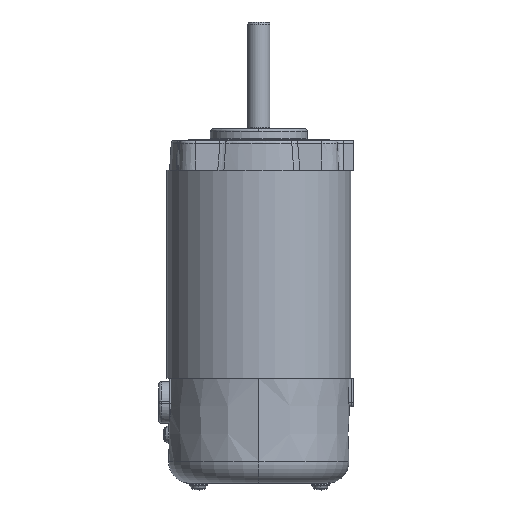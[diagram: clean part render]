
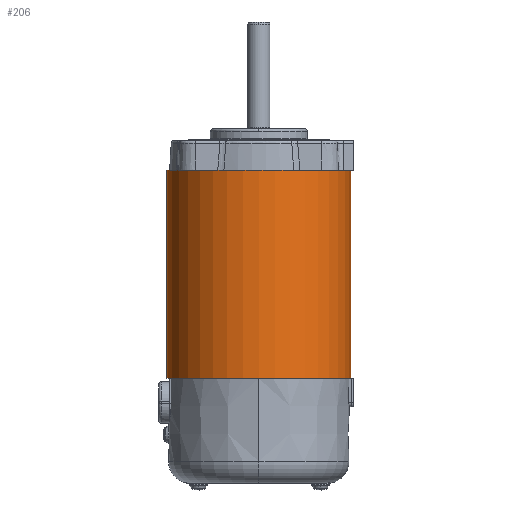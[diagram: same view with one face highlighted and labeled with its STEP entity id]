
A CAD part, left-side view. The second image highlights one B-rep face of the part: STEP entity #206.
In plain terms, the highlighted cylindrical face has radius 33.096 mm (diameter 66.192 mm), a partial arc.
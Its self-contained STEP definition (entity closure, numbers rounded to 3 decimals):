
#127 = AXIS2_PLACEMENT_3D ( 'NONE', #21006, #17052, #20660 ) ;
#206 = ADVANCED_FACE ( 'NONE', ( #695 ), #13304, .T. ) ;
#695 = FACE_OUTER_BOUND ( 'NONE', #23445, .T. ) ;
#710 = AXIS2_PLACEMENT_3D ( 'NONE', #5829, #5499, #11166 ) ;
#1899 = LINE ( 'NONE', #11350, #20952 ) ;
#3849 = CARTESIAN_POINT ( 'NONE',  ( 0., 33.985, 78.445 ) ) ;
#4303 = CARTESIAN_POINT ( 'NONE',  ( 0., 0.889, 3.515 ) ) ;
#5468 = DIRECTION ( 'NONE',  ( 0., 0., -1. ) ) ;
#5499 = DIRECTION ( 'NONE',  ( 0., 0., 1. ) ) ;
#5670 = CARTESIAN_POINT ( 'NONE',  ( 0., 67.081, 78.445 ) ) ;
#5730 = DIRECTION ( 'NONE',  ( 0., 1., 0. ) ) ;
#5829 = CARTESIAN_POINT ( 'NONE',  ( 0., 33.985, 3.515 ) ) ;
#7263 = DIRECTION ( 'NONE',  ( 0., 0., -1. ) ) ;
#7758 = ORIENTED_EDGE ( 'NONE', *, *, #22028, .T. ) ;
#9569 = ORIENTED_EDGE ( 'NONE', *, *, #13159, .T. ) ;
#11071 = VECTOR ( 'NONE', #7263, 1000. ) ;
#11082 = CIRCLE ( 'NONE', #710, 33.096 ) ;
#11166 = DIRECTION ( 'NONE',  ( 0., 1., 0. ) ) ;
#11350 = CARTESIAN_POINT ( 'NONE',  ( 0., 0.889, 78.445 ) ) ;
#12135 = CARTESIAN_POINT ( 'NONE',  ( 0., 0.889, 78.445 ) ) ;
#12466 = VERTEX_POINT ( 'NONE', #17374 ) ;
#12947 = ORIENTED_EDGE ( 'NONE', *, *, #13120, .T. ) ;
#13071 = VERTEX_POINT ( 'NONE', #12135 ) ;
#13120 = EDGE_CURVE ( 'NONE', #13071, #14729, #13384, .T. ) ;
#13159 = EDGE_CURVE ( 'NONE', #12466, #14210, #11082, .T. ) ;
#13196 = ORIENTED_EDGE ( 'NONE', *, *, #17280, .F. ) ;
#13304 = CYLINDRICAL_SURFACE ( 'NONE', #127, 33.096 ) ;
#13384 = CIRCLE ( 'NONE', #22200, 33.096 ) ;
#14022 = LINE ( 'NONE', #5670, #11071 ) ;
#14210 = VERTEX_POINT ( 'NONE', #4303 ) ;
#14639 = DIRECTION ( 'NONE',  ( 0., 0., -1. ) ) ;
#14729 = VERTEX_POINT ( 'NONE', #22249 ) ;
#17052 = DIRECTION ( 'NONE',  ( 0., 0., -1. ) ) ;
#17280 = EDGE_CURVE ( 'NONE', #13071, #14210, #1899, .T. ) ;
#17374 = CARTESIAN_POINT ( 'NONE',  ( 0., 67.081, 3.515 ) ) ;
#20660 = DIRECTION ( 'NONE',  ( 0., 1., 0. ) ) ;
#20952 = VECTOR ( 'NONE', #5468, 1000. ) ;
#21006 = CARTESIAN_POINT ( 'NONE',  ( 0., 33.985, 78.445 ) ) ;
#22028 = EDGE_CURVE ( 'NONE', #14729, #12466, #14022, .T. ) ;
#22200 = AXIS2_PLACEMENT_3D ( 'NONE', #3849, #14639, #5730 ) ;
#22249 = CARTESIAN_POINT ( 'NONE',  ( 0., 67.081, 78.445 ) ) ;
#23445 = EDGE_LOOP ( 'NONE', ( #13196, #12947, #7758, #9569 ) ) ;
